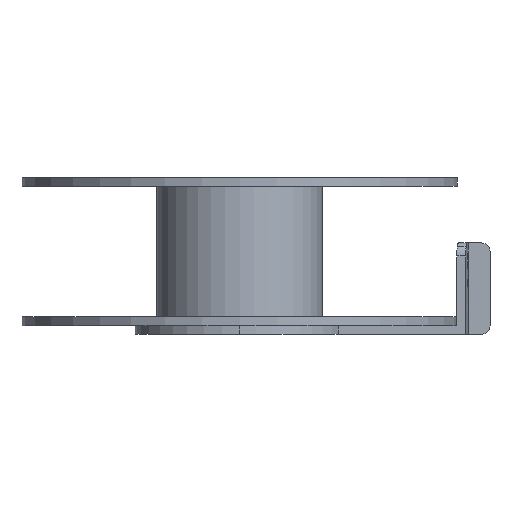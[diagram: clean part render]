
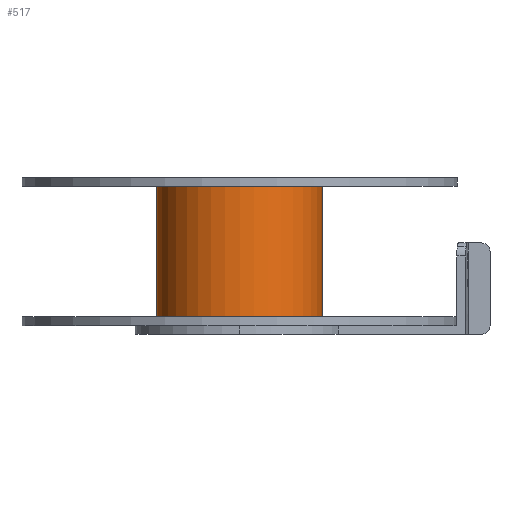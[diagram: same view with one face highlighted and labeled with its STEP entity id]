
A CAD part, front view. The second image highlights one B-rep face of the part: STEP entity #517.
In plain terms, the highlighted cylindrical face has radius 19 mm (diameter 38 mm), a partial arc.
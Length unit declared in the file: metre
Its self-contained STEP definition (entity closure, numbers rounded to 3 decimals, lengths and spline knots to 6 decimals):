
#517=ADVANCED_FACE('62:11392',(#1338),#1339,.T.);
#1338=FACE_OUTER_BOUND('',#11196,.T.);
#1339=CYLINDRICAL_SURFACE('',#11197,0.019);
#11196=EDGE_LOOP('',(#17256,#17257,#17258,#17259));
#11197=AXIS2_PLACEMENT_3D('',#17260,#17261,#17262);
#17256=ORIENTED_EDGE('',*,*,#19398,.T.);
#17257=ORIENTED_EDGE('',*,*,#19474,.T.);
#17258=ORIENTED_EDGE('',*,*,#19400,.T.);
#17259=ORIENTED_EDGE('',*,*,#19472,.T.);
#17260=CARTESIAN_POINT('',(0.0,0.,0.004));
#17261=DIRECTION('',(0.0,0.0,-1.0));
#17262=DIRECTION('',(-1.0,0.0,0.0));
#19398=EDGE_CURVE('',#21450,#21451,#21452,.T.);
#19400=EDGE_CURVE('',#21455,#21453,#21456,.T.);
#19472=EDGE_CURVE('62:11407',#21453,#21450,#21588,.T.);
#19474=EDGE_CURVE('62:11404',#21451,#21455,#21590,.T.);
#21450=VERTEX_POINT('',#27379);
#21451=VERTEX_POINT('',#27380);
#21452=LINE('',#27381,#27382);
#21453=VERTEX_POINT('',#27383);
#21455=VERTEX_POINT('',#27385);
#21456=LINE('',#27386,#27387);
#21588=CIRCLE('',#35155,0.019);
#21590=CIRCLE('',#35157,0.019);
#27379=CARTESIAN_POINT('',(-0.019,0.,0.004));
#27380=CARTESIAN_POINT('',(-0.019,0.,-0.026));
#27381=CARTESIAN_POINT('',(-0.019,0.,0.004));
#27382=VECTOR('',#39402,1.0);
#27383=CARTESIAN_POINT('',(0.019,0.,0.004));
#27385=CARTESIAN_POINT('',(0.019,0.,-0.026));
#27386=CARTESIAN_POINT('',(0.019,0.,0.004));
#27387=VECTOR('',#39406,1.0);
#35155=AXIS2_PLACEMENT_3D('',#39437,#39438,#39439);
#35157=AXIS2_PLACEMENT_3D('',#39443,#39444,#39445);
#39402=DIRECTION('',(0.0,0.0,-1.0));
#39406=DIRECTION('',(-0.0,-0.0,1.0));
#39437=CARTESIAN_POINT('',(0.0,0.,0.004));
#39438=DIRECTION('',(0.0,0.0,-1.0));
#39439=DIRECTION('',(-1.0,0.0,0.0));
#39443=CARTESIAN_POINT('',(0.0,0.,-0.026));
#39444=DIRECTION('',(0.0,0.0,1.0));
#39445=DIRECTION('',(-1.0,0.0,0.0));
